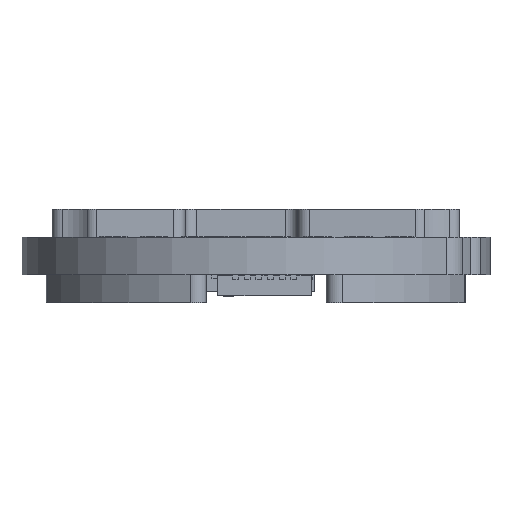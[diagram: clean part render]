
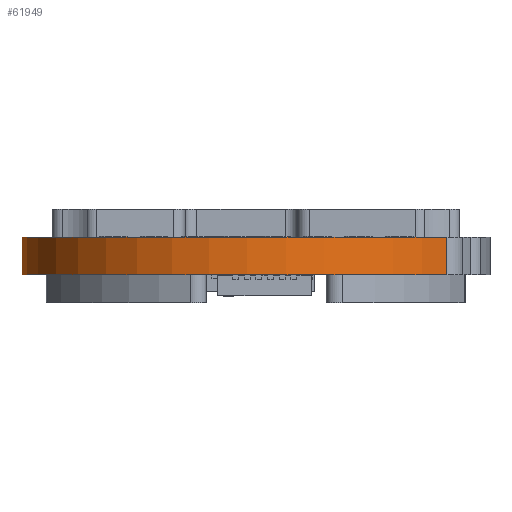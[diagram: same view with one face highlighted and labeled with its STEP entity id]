
A CAD part, front view. The second image highlights one B-rep face of the part: STEP entity #61949.
In plain terms, the highlighted cylindrical face has radius 10 mm (diameter 20 mm), a partial arc.
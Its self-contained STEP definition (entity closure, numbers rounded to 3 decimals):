
#1748 = AXIS2_PLACEMENT_3D ( 'NONE', #21589, #60255, #49060 ) ;
#1779 = DIRECTION ( 'NONE',  ( 0., 0., 1. ) ) ;
#4542 = CARTESIAN_POINT ( 'NONE',  ( 6.5, 11.5, 0. ) ) ;
#5744 = CYLINDRICAL_SURFACE ( 'NONE', #1748, 10. ) ;
#6307 = ORIENTED_EDGE ( 'NONE', *, *, #41599, .T. ) ;
#8898 = DIRECTION ( 'NONE',  ( 0., 0., 1. ) ) ;
#11327 = CIRCLE ( 'NONE', #64422, 10. ) ;
#17434 = CARTESIAN_POINT ( 'NONE',  ( -3.106, 14.28, -1.6 ) ) ;
#17527 = ORIENTED_EDGE ( 'NONE', *, *, #56650, .F. ) ;
#18733 = CARTESIAN_POINT ( 'NONE',  ( 14.66, 5.72, -1.6 ) ) ;
#18863 = CARTESIAN_POINT ( 'NONE',  ( -3.106, 14.28, -1.6 ) ) ;
#19701 = DIRECTION ( 'NONE',  ( 1., 0., 0. ) ) ;
#20670 = CARTESIAN_POINT ( 'NONE',  ( -3.106, 14.28, 0. ) ) ;
#21589 = CARTESIAN_POINT ( 'NONE',  ( 6.5, 11.5, -1.6 ) ) ;
#27366 = FACE_OUTER_BOUND ( 'NONE', #63744, .T. ) ;
#27912 = EDGE_CURVE ( 'NONE', #31873, #47023, #29289, .T. ) ;
#29289 = CIRCLE ( 'NONE', #52350, 10. ) ;
#31873 = VERTEX_POINT ( 'NONE', #17434 ) ;
#34172 = CARTESIAN_POINT ( 'NONE',  ( 6.5, 11.5, -1.6 ) ) ;
#34286 = CARTESIAN_POINT ( 'NONE',  ( 14.66, 5.72, -1.6 ) ) ;
#38067 = ORIENTED_EDGE ( 'NONE', *, *, #52587, .F. ) ;
#41213 = VERTEX_POINT ( 'NONE', #20670 ) ;
#41599 = EDGE_CURVE ( 'NONE', #47023, #68810, #67163, .T. ) ;
#45326 = DIRECTION ( 'NONE',  ( 1., 0., 0. ) ) ;
#47023 = VERTEX_POINT ( 'NONE', #18733 ) ;
#49060 = DIRECTION ( 'NONE',  ( 1., 0., 0. ) ) ;
#51853 = DIRECTION ( 'NONE',  ( 0., 0., 1. ) ) ;
#52350 = AXIS2_PLACEMENT_3D ( 'NONE', #34172, #51853, #45326 ) ;
#52471 = LINE ( 'NONE', #18863, #58849 ) ;
#52587 = EDGE_CURVE ( 'NONE', #41213, #68810, #11327, .T. ) ;
#56650 = EDGE_CURVE ( 'NONE', #31873, #41213, #52471, .T. ) ;
#57570 = DIRECTION ( 'NONE',  ( 0., 0., 1. ) ) ;
#58318 = VECTOR ( 'NONE', #1779, 1000. ) ;
#58849 = VECTOR ( 'NONE', #57570, 1000. ) ;
#60255 = DIRECTION ( 'NONE',  ( 0., 0., -1. ) ) ;
#61949 = ADVANCED_FACE ( 'NONE', ( #27366 ), #5744, .T. ) ;
#63744 = EDGE_LOOP ( 'NONE', ( #64246, #6307, #38067, #17527 ) ) ;
#64246 = ORIENTED_EDGE ( 'NONE', *, *, #27912, .T. ) ;
#64422 = AXIS2_PLACEMENT_3D ( 'NONE', #4542, #8898, #19701 ) ;
#67163 = LINE ( 'NONE', #34286, #58318 ) ;
#68505 = CARTESIAN_POINT ( 'NONE',  ( 14.66, 5.72, 0. ) ) ;
#68810 = VERTEX_POINT ( 'NONE', #68505 ) ;
